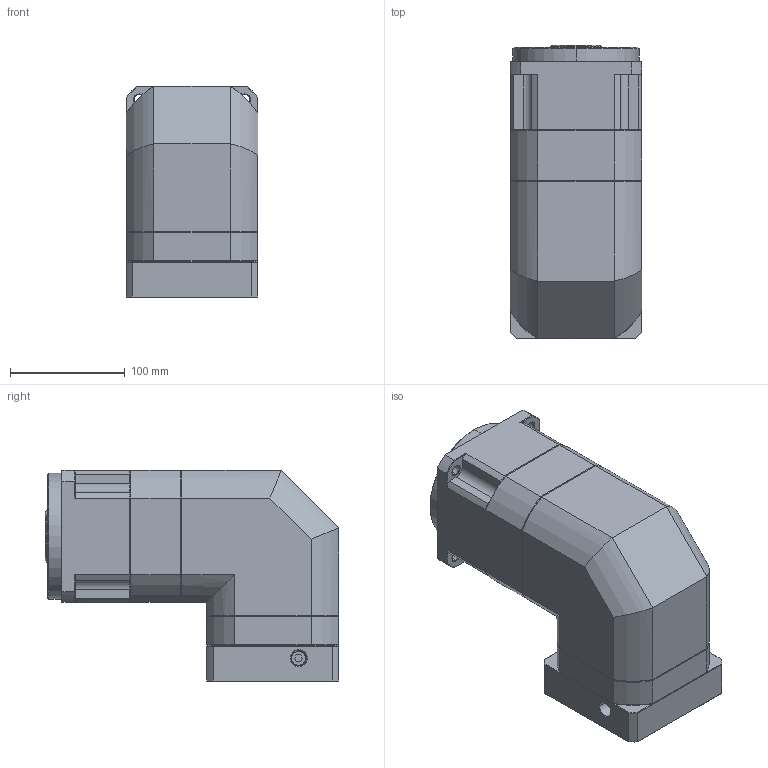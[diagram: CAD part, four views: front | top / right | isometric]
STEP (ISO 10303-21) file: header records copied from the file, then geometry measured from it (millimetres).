
FILE_DESCRIPTION (( 'STEP AP214' ), '1' );
FILE_NAME ('ZPBR115-K32-L2-P1-24-95-115-M6.step', '2024-06-29T08:15:04', ( 'Windows 蚚誧' ), ( 'Organization' ), 'SwSTEP 2.0', 'SolidWorks 2016', '' );
FILE_SCHEMA (( 'AUTOMOTIVE_DESIGN' ));
Length unit declared in the file: millimetre
Products named in the file (1): ZPBR115-K32-L2-P1-24-95-115-M6
Bounding box: 115 x 256 x 184.2 mm (x, y, z)
Surface area: 191631.5 mm2 (no closed solid volume)
Topology: 0 solids, 28 shells, 1824 faces, 4890 edges, 3128 vertices
Faces by surface type: plane 938, bspline 374, cone 280, cylinder 232
Entity records: 87626 total; most frequent: CARTESIAN_POINT 38033, ORIENTED_EDGE 9778, DIRECTION 7527, EDGE_CURVE 4890, VECTOR 3185, LINE 3185, VERTEX_POINT 3128, AXIS2_PLACEMENT_3D 2171
